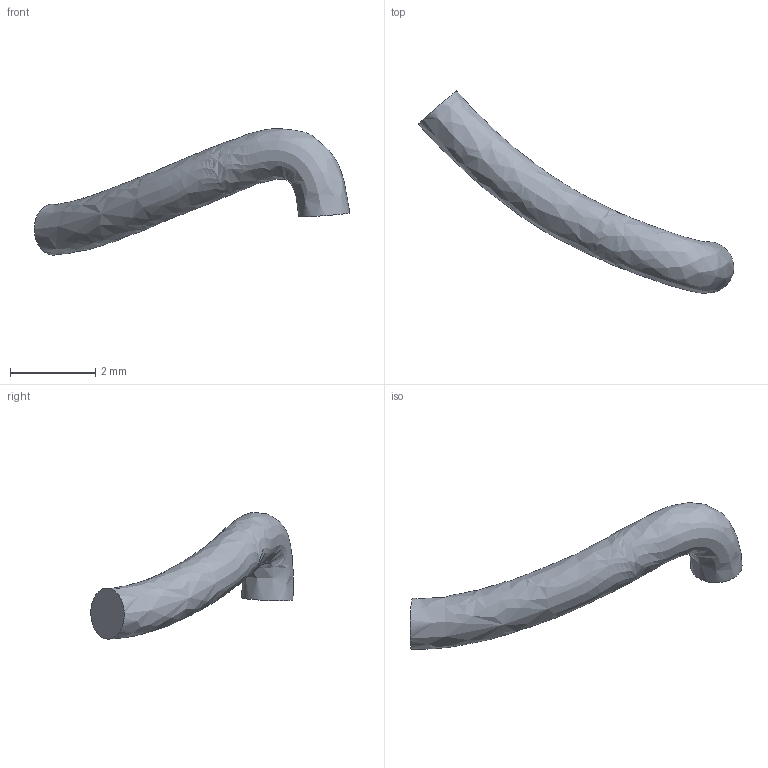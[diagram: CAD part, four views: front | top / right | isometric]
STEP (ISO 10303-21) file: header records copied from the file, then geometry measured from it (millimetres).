
FILE_DESCRIPTION(('Open CASCADE Model'),'2;1');
FILE_NAME('Open CASCADE Shape Model','2026-11-23T18:10:17',('Author'),( 'Open CASCADE'),'Open CASCADE STEP processor 8.0','build123d', 'Unknown');
FILE_SCHEMA(('AUTOMOTIVE_DESIGN { 1 0 10303 214 1 1 1 1 }'));
Length unit declared in the file: millimetre
Products named in the file (1): SOLID
Bounding box: 7.4 x 4.75 x 2.96 mm (x, y, z)
Volume: 9.9 mm3; surface area: 35.2 mm2
Topology: 1 solids, 1 shells, 3 faces, 3 edges, 2 vertices
Faces by surface type: plane 2, bspline 1
Entity records: 1012 total; most frequent: CARTESIAN_POINT 942, DIRECTION 9, ORIENTED_EDGE 6, PCURVE 6, DEFINITIONAL_REPRESENTATION 6, AXIS2_PLACEMENT_3D 3, ADVANCED_FACE 3, FACE_BOUND 3
